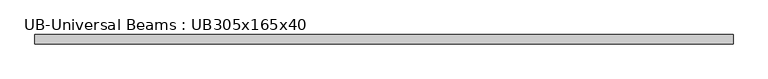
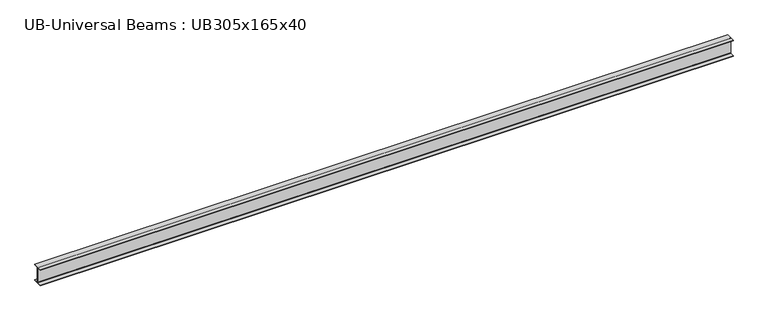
"""IFC4 building model written with IfcOpenShell, lengths in millimetres: beam geometry, UB-Universal Beams : UB305x165x40."""

from ifc_helpers import new_model, si_unit, point, frame, frame_2d, origin, place, context, project, spatial, polyline, circle_curve, trimmed, segment, composite_curve, outline, extrude, source, transform, mapped, element, save


def ub_universal_beams_ub305x165x40_abdacf20(model_context):
    return source(origin(), model_context, "Body", "SweptSolid", [
        extrude(outline(composite_curve([segment(polyline([(82.5, -141.5), (82.5, -151.7), (-82.5, -151.7), (-82.5, -141.5), (-11.9, -141.5)]), True, "CONTINUOUS"), segment(trimmed(circle_curve(frame_2d((-11.9, -132.6)), 8.9), [point((-11.9, -141.5))], [point((-3.0, -132.6))], True, "CARTESIAN"), True, "CONTINUOUS"), segment(polyline([(-3.0, -132.6), (-3.0, 132.6)]), True, "CONTINUOUS"), segment(trimmed(circle_curve(frame_2d((-11.9, 132.6)), 8.9), [point((-3.0, 132.6))], [point((-11.9, 141.5))], True, "CARTESIAN"), True, "CONTINUOUS"), segment(polyline([(-11.9, 141.5), (-82.5, 141.5), (-82.5, 151.7), (82.5, 151.7), (82.5, 141.5), (11.9, 141.5)]), True, "CONTINUOUS"), segment(trimmed(circle_curve(frame_2d((11.9, 132.6)), 8.9), [point((11.9, 141.5))], [point((3.0, 132.6))], True, "CARTESIAN"), True, "CONTINUOUS"), segment(polyline([(3.0, 132.6), (3.0, -132.6)]), True, "CONTINUOUS"), segment(trimmed(circle_curve(frame_2d((11.9, -132.6)), 8.9), [point((3.0, -132.6))], [point((11.9, -141.5))], True, "CARTESIAN"), True, "CONTINUOUS"), segment(polyline([(11.9, -141.5), (82.5, -141.5)]), True, "CONTINUOUS")], self_intersect=False)), frame((-6223.85, 0.0, 0.0), z_axis=(1.0, 0.0, 0.0), x_axis=(0.0, 1.0, 0.0)), (0.0, 0.0, 1.0), 12435.1),
    ])


if __name__ == "__main__":
    model = new_model("IFC4")
    model_context = context("Model", 3, world=origin())
    ifc_project = project(units=[si_unit("LENGTHUNIT", "METRE", prefix="MILLI")], contexts=[model_context])
    site = spatial("IfcSite", under=ifc_project)
    building = spatial("IfcBuilding", under=site)
    placement = place(None, origin())
    ub_universal_beams_ub305x165x40_shape = ub_universal_beams_ub305x165x40_abdacf20(model_context)
    element("IfcBeam", 1, ObjectType="UB-Universal Beams : UB305x165x40", at=placement, inside=building, context=model_context, shape_type="MappedRepresentation", body=[
        mapped(ub_universal_beams_ub305x165x40_shape, transform((0.0, 0.0, 0.0), x_axis=(1.0, 0.0, 0.0), y_axis=(0.0, 1.0, 0.0), z_axis=(0.0, 0.0, 1.0))),
    ])
    save(model, "model.ifc")
